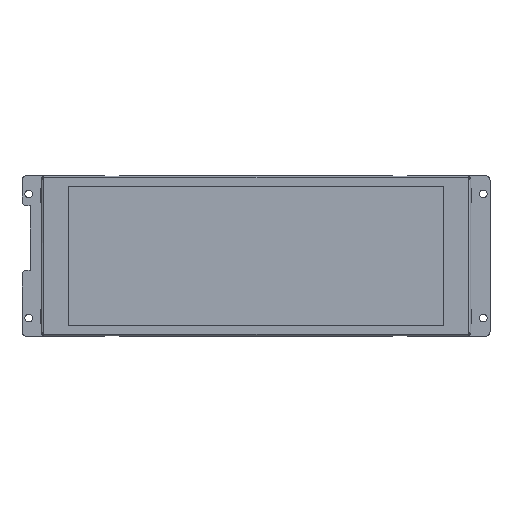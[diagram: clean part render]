
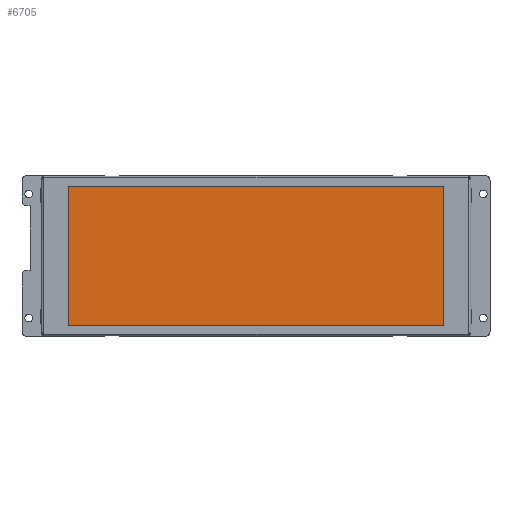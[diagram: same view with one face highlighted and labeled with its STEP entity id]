
A CAD part, top view. The second image highlights one B-rep face of the part: STEP entity #6705.
In plain terms, the highlighted planar face has unit normal (0, 0, 1).
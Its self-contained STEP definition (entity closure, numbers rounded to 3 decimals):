
#6306=DIRECTION('',(1.,0.,0.));
#6307=VECTOR('',#6306,59.22);
#6308=CARTESIAN_POINT('',(84.339,98.741,-0.1));
#6309=LINE('',#6308,#6307);
#6313=DIRECTION('',(0.,-1.,0.));
#6314=VECTOR('',#6313,159.59);
#6315=CARTESIAN_POINT('',(84.339,258.331,-0.1));
#6316=LINE('',#6315,#6314);
#6320=DIRECTION('',(-1.,0.,0.));
#6321=VECTOR('',#6320,59.22);
#6322=CARTESIAN_POINT('',(143.559,258.331,-0.1));
#6323=LINE('',#6322,#6321);
#6327=DIRECTION('',(0.,1.,0.));
#6328=VECTOR('',#6327,159.59);
#6329=CARTESIAN_POINT('',(143.559,98.741,-0.1));
#6330=LINE('',#6329,#6328);
#6382=CARTESIAN_POINT('',(84.339,98.741,-0.1));
#6383=CARTESIAN_POINT('',(143.559,98.741,-0.1));
#6384=VERTEX_POINT('',#6382);
#6385=VERTEX_POINT('',#6383);
#6386=CARTESIAN_POINT('',(143.559,258.331,-0.1));
#6387=VERTEX_POINT('',#6386);
#6388=CARTESIAN_POINT('',(84.339,258.331,-0.1));
#6389=VERTEX_POINT('',#6388);
#6694=CARTESIAN_POINT('',(0.,0.,-0.1));
#6695=DIRECTION('',(0.,0.,1.));
#6696=DIRECTION('',(1.,0.,0.));
#6697=AXIS2_PLACEMENT_3D('',#6694,#6695,#6696);
#6698=PLANE('',#6697);
#6699=ORIENTED_EDGE('',*,*,#6646,.F.);
#6700=ORIENTED_EDGE('',*,*,#6661,.F.);
#6701=ORIENTED_EDGE('',*,*,#6675,.F.);
#6702=ORIENTED_EDGE('',*,*,#6688,.F.);
#6703=EDGE_LOOP('',(#6699,#6700,#6701,#6702));
#6704=FACE_OUTER_BOUND('',#6703,.F.);
#6646=EDGE_CURVE('',#6384,#6385,#6309,.T.);
#6661=EDGE_CURVE('',#6389,#6384,#6316,.T.);
#6675=EDGE_CURVE('',#6387,#6389,#6323,.T.);
#6688=EDGE_CURVE('',#6385,#6387,#6330,.T.);
#6705=ADVANCED_FACE('',(#6704),#6698,.T.);
